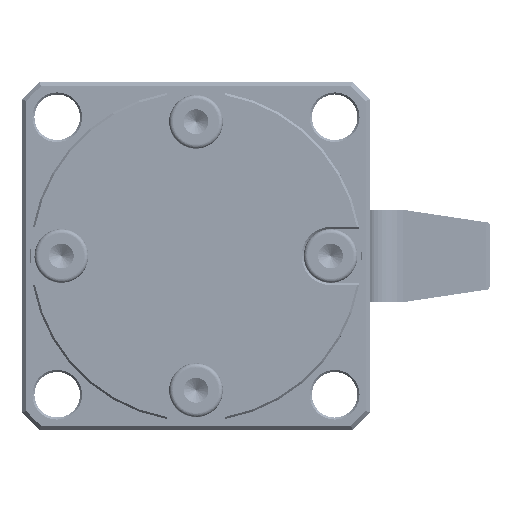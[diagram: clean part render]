
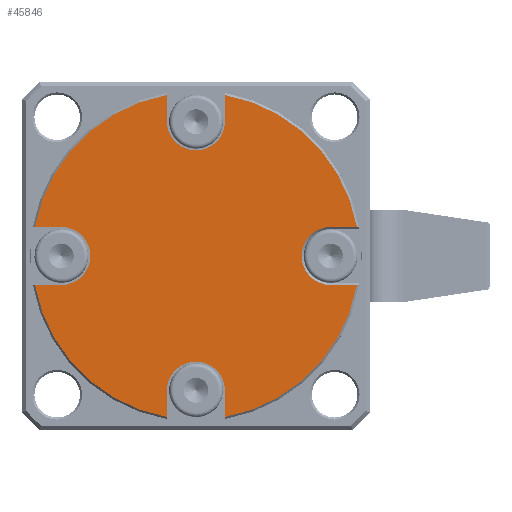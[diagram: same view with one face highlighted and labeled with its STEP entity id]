
A CAD part, front view. The second image highlights one B-rep face of the part: STEP entity #45846.
In plain terms, the highlighted planar face has unit normal (0, -1, 0).
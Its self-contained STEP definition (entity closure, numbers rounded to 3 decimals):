
#3598 = EDGE_CURVE ( 'NONE', #3603, #3605, #16135, .T. ) ;
#3603 = VERTEX_POINT ( 'NONE', #16253 ) ;
#3605 = VERTEX_POINT ( 'NONE', #16238 ) ;
#3907 = VERTEX_POINT ( 'NONE', #17148 ) ;
#3909 = EDGE_CURVE ( 'NONE', #3982, #3907, #17103, .T. ) ;
#3982 = VERTEX_POINT ( 'NONE', #17923 ) ;
#11708 = DIRECTION ( 'NONE',  ( 0., 0., -1. ) ) ;
#11709 = DIRECTION ( 'NONE',  ( 0., -1., 0. ) ) ;
#11710 = CARTESIAN_POINT ( 'NONE',  ( 2144.978, 222.465, 0. ) ) ;
#11713 = AXIS2_PLACEMENT_3D ( 'NONE', #11710, #11709, #11708 ) ;
#11715 = CARTESIAN_POINT ( 'NONE',  ( 2183.852, 222.465, -7. ) ) ;
#11716 = CIRCLE ( 'NONE', #11713, 39.5 ) ;
#12438 = CARTESIAN_POINT ( 'NONE',  ( 2106.103, 222.465, -7. ) ) ;
#12851 = CARTESIAN_POINT ( 'NONE',  ( 2151.978, 222.465, -38.875 ) ) ;
#16135 = CIRCLE ( 'NONE', #16243, 7. ) ;
#16238 = CARTESIAN_POINT ( 'NONE',  ( 2151.978, 222.465, 32.5 ) ) ;
#16239 = DIRECTION ( 'NONE',  ( 1., 0., 0. ) ) ;
#16241 = DIRECTION ( 'NONE',  ( 0., -1., 0. ) ) ;
#16243 = AXIS2_PLACEMENT_3D ( 'NONE', #16259, #16241, #16239 ) ;
#16253 = CARTESIAN_POINT ( 'NONE',  ( 2144.978, 222.465, 25.5 ) ) ;
#16259 = CARTESIAN_POINT ( 'NONE',  ( 2144.978, 222.465, 32.5 ) ) ;
#17102 = AXIS2_PLACEMENT_3D ( 'NONE', #17113, #17112, #17110 ) ;
#17103 = CIRCLE ( 'NONE', #17102, 39.5 ) ;
#17110 = DIRECTION ( 'NONE',  ( 0., 0., -1. ) ) ;
#17112 = DIRECTION ( 'NONE',  ( 0., -1., 0. ) ) ;
#17113 = CARTESIAN_POINT ( 'NONE',  ( 2144.978, 222.465, 0. ) ) ;
#17148 = CARTESIAN_POINT ( 'NONE',  ( 2106.103, 222.465, 7. ) ) ;
#17923 = CARTESIAN_POINT ( 'NONE',  ( 2137.978, 222.465, 38.875 ) ) ;
#28203 = DIRECTION ( 'NONE',  ( 0., 0., -1. ) ) ;
#28204 = DIRECTION ( 'NONE',  ( 0., -1., 0. ) ) ;
#28205 = CARTESIAN_POINT ( 'NONE',  ( 2177.478, 222.465, 0. ) ) ;
#28206 = AXIS2_PLACEMENT_3D ( 'NONE', #28205, #28204, #28203 ) ;
#28207 = CIRCLE ( 'NONE', #28206, 7. ) ;
#28224 = AXIS2_PLACEMENT_3D ( 'NONE', #28254, #28250, #28249 ) ;
#28231 = CIRCLE ( 'NONE', #28224, 39.5 ) ;
#28249 = DIRECTION ( 'NONE',  ( 0., 0., -1. ) ) ;
#28250 = DIRECTION ( 'NONE',  ( 0., -1., 0. ) ) ;
#28254 = CARTESIAN_POINT ( 'NONE',  ( 2144.978, 222.465, 0. ) ) ;
#28440 = CARTESIAN_POINT ( 'NONE',  ( 2112.478, 222.465, 7. ) ) ;
#28442 = CARTESIAN_POINT ( 'NONE',  ( 2112.478, 222.465, -7. ) ) ;
#28475 = LINE ( 'NONE', #28524, #28523 ) ;
#28505 = DIRECTION ( 'NONE',  ( 1., 0., 0. ) ) ;
#28506 = VECTOR ( 'NONE', #28505, 1000. ) ;
#28507 = CARTESIAN_POINT ( 'NONE',  ( 2112.478, 222.465, -7. ) ) ;
#28508 = CARTESIAN_POINT ( 'NONE',  ( 2137.978, 222.465, -38.875 ) ) ;
#28518 = LINE ( 'NONE', #28507, #28506 ) ;
#28522 = DIRECTION ( 'NONE',  ( 0., 0., 1. ) ) ;
#28523 = VECTOR ( 'NONE', #28522, 1000. ) ;
#28524 = CARTESIAN_POINT ( 'NONE',  ( 2151.978, 222.465, -32.5 ) ) ;
#28525 = CARTESIAN_POINT ( 'NONE',  ( 2137.978, 222.465, 32.5 ) ) ;
#28600 = LINE ( 'NONE', #28610, #28649 ) ;
#28609 = DIRECTION ( 'NONE',  ( 0., 0., -1. ) ) ;
#28610 = CARTESIAN_POINT ( 'NONE',  ( 2137.978, 222.465, 32.5 ) ) ;
#28649 = VECTOR ( 'NONE', #28609, 1000. ) ;
#28880 = CARTESIAN_POINT ( 'NONE',  ( 2151.978, 222.465, -32.5 ) ) ;
#28942 = DIRECTION ( 'NONE',  ( 1., 0., 0. ) ) ;
#28943 = VECTOR ( 'NONE', #28942, 1000. ) ;
#28944 = CARTESIAN_POINT ( 'NONE',  ( 2177.478, 222.465, -7. ) ) ;
#28957 = CARTESIAN_POINT ( 'NONE',  ( 2177.478, 222.465, -7. ) ) ;
#28976 = LINE ( 'NONE', #28944, #28943 ) ;
#28984 = DIRECTION ( 'NONE',  ( -1., 0., 0. ) ) ;
#28985 = DIRECTION ( 'NONE',  ( 0., -1., 0. ) ) ;
#28986 = CARTESIAN_POINT ( 'NONE',  ( 2144.978, 222.465, -32.5 ) ) ;
#28987 = AXIS2_PLACEMENT_3D ( 'NONE', #28986, #28985, #28984 ) ;
#28988 = CIRCLE ( 'NONE', #28987, 7. ) ;
#29009 = CARTESIAN_POINT ( 'NONE',  ( 2177.478, 222.465, 7. ) ) ;
#29131 = LINE ( 'NONE', #29147, #29146 ) ;
#29145 = DIRECTION ( 'NONE',  ( 0., 0., -1. ) ) ;
#29146 = VECTOR ( 'NONE', #29145, 1000. ) ;
#29147 = CARTESIAN_POINT ( 'NONE',  ( 2137.978, 222.465, -32.5 ) ) ;
#29175 = DIRECTION ( 'NONE',  ( 1., 0., 0. ) ) ;
#29176 = DIRECTION ( 'NONE',  ( 0., -1., 0. ) ) ;
#29177 = AXIS2_PLACEMENT_3D ( 'NONE', #29196, #29176, #29175 ) ;
#29194 = CIRCLE ( 'NONE', #29177, 7. ) ;
#29196 = CARTESIAN_POINT ( 'NONE',  ( 2144.978, 222.465, 32.5 ) ) ;
#29352 = DIRECTION ( 'NONE',  ( 0., 0., 1. ) ) ;
#29353 = VECTOR ( 'NONE', #29352, 1000. ) ;
#29354 = CARTESIAN_POINT ( 'NONE',  ( 2151.978, 222.465, 32.5 ) ) ;
#29362 = LINE ( 'NONE', #29354, #29353 ) ;
#29447 = CARTESIAN_POINT ( 'NONE',  ( 2183.852, 222.465, 7. ) ) ;
#29914 = CIRCLE ( 'NONE', #30021, 7. ) ;
#29916 = DIRECTION ( 'NONE',  ( -1., 0., 0. ) ) ;
#29917 = VECTOR ( 'NONE', #29916, 1000. ) ;
#29919 = LINE ( 'NONE', #29921, #29917 ) ;
#29921 = CARTESIAN_POINT ( 'NONE',  ( 2112.478, 222.465, 7. ) ) ;
#30021 = AXIS2_PLACEMENT_3D ( 'NONE', #30069, #30068, #30067 ) ;
#30029 = CARTESIAN_POINT ( 'NONE',  ( 2137.978, 222.465, -32.5 ) ) ;
#30045 = DIRECTION ( 'NONE',  ( 0., 0., -1. ) ) ;
#30046 = DIRECTION ( 'NONE',  ( 0., -1., 0. ) ) ;
#30047 = CARTESIAN_POINT ( 'NONE',  ( 2124.978, 222.465, 0. ) ) ;
#30054 = AXIS2_PLACEMENT_3D ( 'NONE', #30047, #30046, #30045 ) ;
#30062 = FACE_OUTER_BOUND ( 'NONE', #41940, .T. ) ;
#30066 = PLANE ( 'NONE',  #30054 ) ;
#30067 = DIRECTION ( 'NONE',  ( 0., 0., 1. ) ) ;
#30068 = DIRECTION ( 'NONE',  ( 0., -1., 0. ) ) ;
#30069 = CARTESIAN_POINT ( 'NONE',  ( 2112.478, 222.465, 0. ) ) ;
#30624 = CARTESIAN_POINT ( 'NONE',  ( 2151.978, 222.465, 38.875 ) ) ;
#30658 = DIRECTION ( 'NONE',  ( -1., 0., 0. ) ) ;
#30659 = VECTOR ( 'NONE', #30658, 1000. ) ;
#30660 = CARTESIAN_POINT ( 'NONE',  ( 2177.478, 222.465, 7. ) ) ;
#30661 = LINE ( 'NONE', #30660, #30659 ) ;
#30739 = DIRECTION ( 'NONE',  ( 0., -1., 0. ) ) ;
#30943 = DIRECTION ( 'NONE',  ( 0., 0., -1. ) ) ;
#30947 = AXIS2_PLACEMENT_3D ( 'NONE', #30962, #30739, #30943 ) ;
#30952 = CIRCLE ( 'NONE', #30947, 39.5 ) ;
#30962 = CARTESIAN_POINT ( 'NONE',  ( 2144.978, 222.465, 0. ) ) ;
#39036 = EDGE_CURVE ( 'NONE', #39437, #39039, #11716, .T. ) ;
#39039 = VERTEX_POINT ( 'NONE', #11715 ) ;
#39211 = VERTEX_POINT ( 'NONE', #12438 ) ;
#39437 = VERTEX_POINT ( 'NONE', #12851 ) ;
#40808 = EDGE_CURVE ( 'NONE', #44849, #44848, #28207, .T. ) ;
#40927 = EDGE_CURVE ( 'NONE', #39211, #41786, #28231, .T. ) ;
#41147 = ORIENTED_EDGE ( 'NONE', *, *, #39036, .T. ) ;
#41179 = VERTEX_POINT ( 'NONE', #28442 ) ;
#41180 = VERTEX_POINT ( 'NONE', #28440 ) ;
#41647 = ORIENTED_EDGE ( 'NONE', *, *, #41719, .F. ) ;
#41648 = EDGE_CURVE ( 'NONE', #39437, #45282, #28475, .T. ) ;
#41714 = ORIENTED_EDGE ( 'NONE', *, *, #40927, .T. ) ;
#41717 = VERTEX_POINT ( 'NONE', #28525 ) ;
#41719 = EDGE_CURVE ( 'NONE', #39211, #41179, #28518, .T. ) ;
#41786 = VERTEX_POINT ( 'NONE', #28508 ) ;
#41940 = EDGE_LOOP ( 'NONE', ( #45865, #45879, #45835, #45885, #41647, #41714, #43688, #45837, #43587, #41147, #44841, #43235, #45891, #44271, #45953, #46042, #45646 ) ) ;
#42066 = EDGE_CURVE ( 'NONE', #3982, #41717, #28600, .T. ) ;
#43235 = ORIENTED_EDGE ( 'NONE', *, *, #40808, .F. ) ;
#43587 = ORIENTED_EDGE ( 'NONE', *, *, #41648, .F. ) ;
#43688 = ORIENTED_EDGE ( 'NONE', *, *, #45376, .F. ) ;
#44271 = ORIENTED_EDGE ( 'NONE', *, *, #45952, .T. ) ;
#44838 = EDGE_CURVE ( 'NONE', #44848, #39039, #28976, .T. ) ;
#44841 = ORIENTED_EDGE ( 'NONE', *, *, #44838, .F. ) ;
#44848 = VERTEX_POINT ( 'NONE', #28957 ) ;
#44849 = VERTEX_POINT ( 'NONE', #29009 ) ;
#44915 = EDGE_CURVE ( 'NONE', #45282, #45840, #28988, .T. ) ;
#45282 = VERTEX_POINT ( 'NONE', #28880 ) ;
#45376 = EDGE_CURVE ( 'NONE', #45840, #41786, #29131, .T. ) ;
#45427 = EDGE_CURVE ( 'NONE', #41717, #3603, #29194, .T. ) ;
#45646 = ORIENTED_EDGE ( 'NONE', *, *, #45427, .F. ) ;
#45658 = EDGE_CURVE ( 'NONE', #3605, #45922, #29362, .T. ) ;
#45701 = VERTEX_POINT ( 'NONE', #29447 ) ;
#45826 = EDGE_CURVE ( 'NONE', #41180, #3907, #29919, .T. ) ;
#45835 = ORIENTED_EDGE ( 'NONE', *, *, #45826, .F. ) ;
#45836 = EDGE_CURVE ( 'NONE', #41179, #41180, #29914, .T. ) ;
#45837 = ORIENTED_EDGE ( 'NONE', *, *, #44915, .F. ) ;
#45840 = VERTEX_POINT ( 'NONE', #30029 ) ;
#45846 = ADVANCED_FACE ( 'NONE', ( #30062 ), #30066, .T. ) ;
#45865 = ORIENTED_EDGE ( 'NONE', *, *, #42066, .F. ) ;
#45879 = ORIENTED_EDGE ( 'NONE', *, *, #3909, .T. ) ;
#45885 = ORIENTED_EDGE ( 'NONE', *, *, #45836, .F. ) ;
#45891 = ORIENTED_EDGE ( 'NONE', *, *, #45923, .F. ) ;
#45922 = VERTEX_POINT ( 'NONE', #30624 ) ;
#45923 = EDGE_CURVE ( 'NONE', #45701, #44849, #30661, .T. ) ;
#45952 = EDGE_CURVE ( 'NONE', #45701, #45922, #30952, .T. ) ;
#45953 = ORIENTED_EDGE ( 'NONE', *, *, #45658, .F. ) ;
#46042 = ORIENTED_EDGE ( 'NONE', *, *, #3598, .F. ) ;
